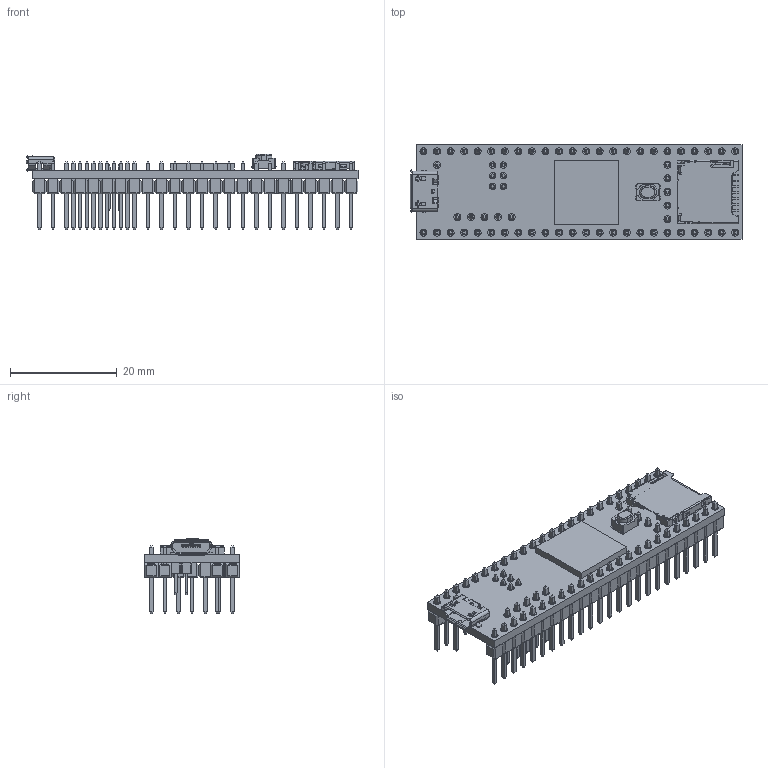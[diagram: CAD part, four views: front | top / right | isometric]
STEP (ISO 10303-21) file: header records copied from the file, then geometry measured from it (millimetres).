
FILE_DESCRIPTION(/* description */ (''),/* implementation_level */ '2;1');
FILE_NAME(/* name */ 'C:/Users/karim/Downloads/Teensy/Teensy 4.1 (With Headers).step',/* time_stamp */ '2020-05-27T01:58:11+02:00',/* author */ (''),/* organization */ (''),/* preprocessor_version */ 'ST-DEVELOPER v18.1',/* originating_system */ 'Autodesk Translation Framework v9.3.0.1241',/* authorisation */ '');
FILE_SCHEMA (('AUTOMOTIVE_DESIGN { 1 0 10303 214 3 1 1 }'));
Products named in the file (11): Teensy4.1; Component1; 114-00841-68--3DModel-STEP-56544; MIMXRT1052CVJ5B; MicroUSB Molex 473460001; Pin Header 1x6 TH Pitch 2.54mm; Pin Header 1x6 TH Pitch 2.54mm v1(Mirror); Pin Header 1x5 TH Pitch 2.54mm; Pin Header 1x1 TH Pitch 2.54mm; pin header 1x3 pitch 2mm heigth 5mm; PTS810 SJK 250 SMTR LFS
Assembly tree (18 placements, depth 2):
  Teensy4.1
    Component1
    114-00841-68--3DModel-STEP-56544
    MIMXRT1052CVJ5B
    MicroUSB Molex 473460001
    Pin Header 1x6 TH Pitch 2.54mm  x4
    Pin Header 1x6 TH Pitch 2.54mm v1(Mirror)  x4
    Pin Header 1x5 TH Pitch 2.54mm  x2
    Pin Header 1x1 TH Pitch 2.54mm
    pin header 1x3 pitch 2mm heigth 5mm  x2
    PTS810 SJK 250 SMTR LFS
Bounding box: 62.21 x 17.78 x 14.08 mm (x, y, z)
Volume: 2417.5 mm3; surface area: 8584.6 mm2
Topology: 416 solids, 474 shells, 4582 faces, 11636 edges, 7483 vertices
Faces by surface type: plane 3415, cylinder 917, sphere 200, bspline 32, torus 18
Full cylindrical faces by diameter (mm): 0.5 x2, 0.7 x18, 0.8 x176, 1.21 x12, 1.31 x117
Entity records: 89808 total; most frequent: CARTESIAN_POINT 16521, DIRECTION 15044, ORIENTED_EDGE 14216, EDGE_CURVE 7164, LINE 5130, VECTOR 5130, AXIS2_PLACEMENT_3D 4957, VERTEX_POINT 4891
